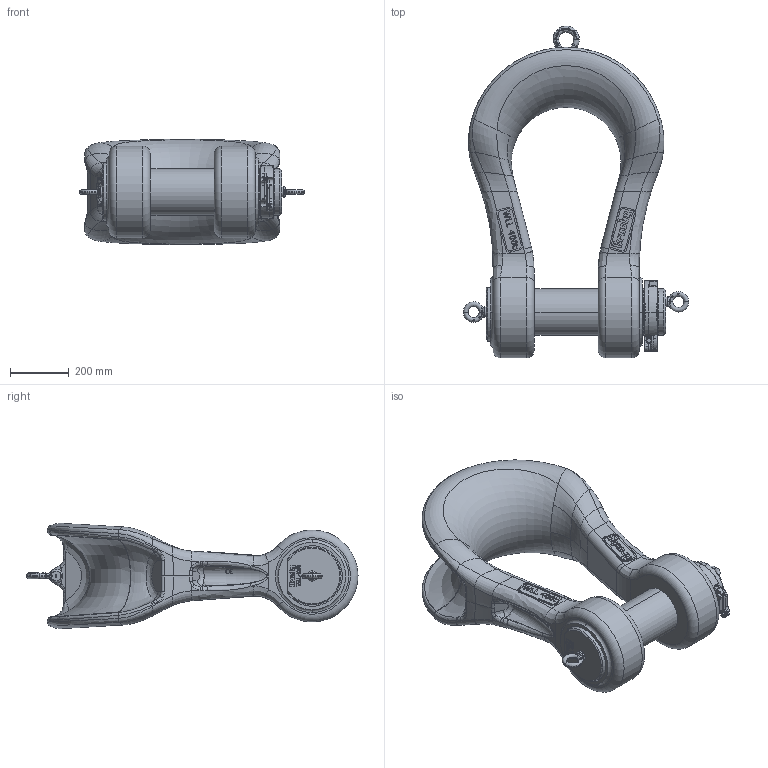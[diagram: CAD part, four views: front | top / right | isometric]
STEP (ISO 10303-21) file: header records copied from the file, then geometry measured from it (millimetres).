
FILE_DESCRIPTION((''),'2;1');
FILE_NAME('1021337_ASM','2024-09-04T11:34:26',('justin.lewis'),('The Crosby Group LLC'),'CREO PARAMETRIC BY PTC INC, 2021304','CREO PARAMETRIC BY PTC INC, 2021304','');
FILE_SCHEMA(('CONFIG_CONTROL_DESIGN','GEOMETRIC_VALIDATION_PROPERTIES_MIM'));
Length unit declared in the file: millimetre
Products named in the file (14): 0829-000400-D000-11; 0830-010400-D000-11; 1045995; 2038013; 2038006; 2038004; 3507862; 2038019_ASM; 1502886; 1515866; 88343; 78089; 1019515_ASM; 1021337_ASM
Assembly tree (17 placements, depth 3):
  1021337_ASM
    0829-000400-D000-11
    0830-010400-D000-11
    1045995  x2
    2038019_ASM
      2038013  x2
      2038006
      2038004  x2
      3507862  x2
    1019515_ASM
      1502886
      1515866
      88343
      78089
Bounding box: 769.97 x 1135.12 x 359.88 mm (x, y, z)
Volume: 66795108.9 mm3; surface area: 2571768.7 mm2
Topology: 15 solids, 23 shells, 4170 faces, 14612 edges, 11687 vertices
Faces by surface type: plane 1557, extrusion 1201, bspline 539, torus 320, cylinder 288, cone 163, revolution 68, sphere 34
Entity records: 248453 total; most frequent: CARTESIAN_POINT 118483, ORIENTED_EDGE 15376, PRESENTATION_STYLE_ASSIGNMENT 14372, STYLED_ITEM 14372, CURVE_STYLE 11433, DIRECTION 11088, EDGE_CURVE 7710, B_SPLINE_CURVE_WITH_KNOTS 5677
